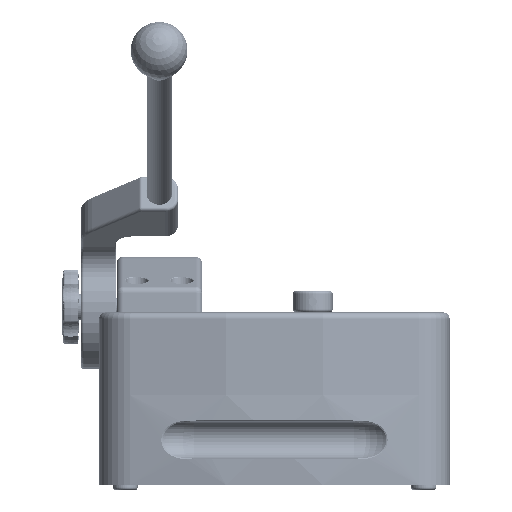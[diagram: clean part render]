
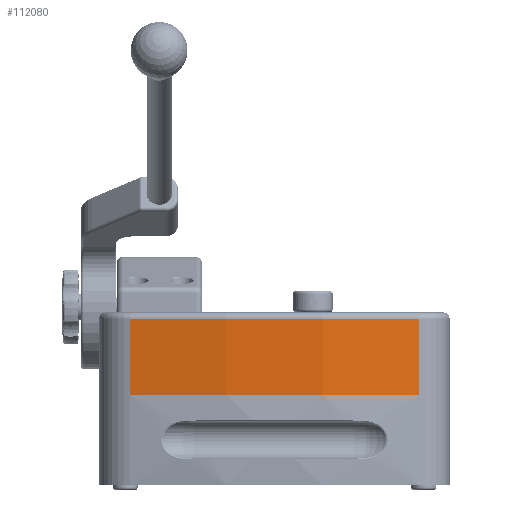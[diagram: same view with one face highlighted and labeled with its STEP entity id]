
A CAD part, left-side view. The second image highlights one B-rep face of the part: STEP entity #112080.
In plain terms, the highlighted cylindrical face has radius 330.2 mm (diameter 660.4 mm), a partial arc.
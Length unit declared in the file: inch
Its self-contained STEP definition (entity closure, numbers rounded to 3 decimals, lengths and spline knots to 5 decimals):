
#8716=LINE('',#167079,#16362);
#8727=LINE('',#167135,#16373);
#16362=VECTOR('',#133001,1.);
#16373=VECTOR('',#133068,1.);
#23418=CYLINDRICAL_SURFACE('',#119621,13.);
#29206=FACE_OUTER_BOUND('',#35935,.T.);
#35935=EDGE_LOOP('',(#79537,#79538,#79539,#79540));
#43043=CIRCLE('',#119618,13.);
#43046=CIRCLE('',#119622,13.);
#47784=VERTEX_POINT('',#167075);
#47785=VERTEX_POINT('',#167077);
#47800=VERTEX_POINT('',#167127);
#47802=VERTEX_POINT('',#167133);
#59971=EDGE_CURVE('',#47785,#47784,#8716,.T.);
#59994=EDGE_CURVE('',#47784,#47800,#43043,.T.);
#59997=EDGE_CURVE('',#47802,#47785,#43046,.T.);
#59998=EDGE_CURVE('',#47800,#47802,#8727,.T.);
#79537=ORIENTED_EDGE('',*,*,#59997,.F.);
#79538=ORIENTED_EDGE('',*,*,#59998,.F.);
#79539=ORIENTED_EDGE('',*,*,#59994,.F.);
#79540=ORIENTED_EDGE('',*,*,#59971,.F.);
#112080=ADVANCED_FACE('',(#29206),#23418,.T.);
#119618=AXIS2_PLACEMENT_3D('',#167128,#133058,#133059);
#119621=AXIS2_PLACEMENT_3D('',#167132,#133064,#133065);
#119622=AXIS2_PLACEMENT_3D('',#167134,#133066,#133067);
#133001=DIRECTION('',(0.,0.,1.));
#133058=DIRECTION('center_axis',(0.,0.,
1.));
#133059=DIRECTION('ref_axis',(-1.,0.,0.));
#133064=DIRECTION('center_axis',(0.,0.,
1.));
#133065=DIRECTION('ref_axis',(-1.,0.,0.));
#133066=DIRECTION('center_axis',(0.,0.,
-1.));
#133067=DIRECTION('ref_axis',(1.,0.,0.));
#133068=DIRECTION('',(0.,0.,-1.));
#167075=CARTESIAN_POINT('',(30.72006,28.84385,1.96902));
#167077=CARTESIAN_POINT('',(30.72006,28.84385,0.44402));
#167079=CARTESIAN_POINT('',(30.72006,28.84385,2.05026));
#167127=CARTESIAN_POINT('',(30.72006,23.06489,1.96902));
#167128=CARTESIAN_POINT('Origin',(43.39487,25.95437,1.96902));
#167132=CARTESIAN_POINT('Origin',(43.39487,25.95437,2.05026));
#167133=CARTESIAN_POINT('',(30.72006,23.06489,0.44402));
#167134=CARTESIAN_POINT('Origin',(43.39487,25.95437,0.44402));
#167135=CARTESIAN_POINT('',(30.72006,23.06489,2.05026));
